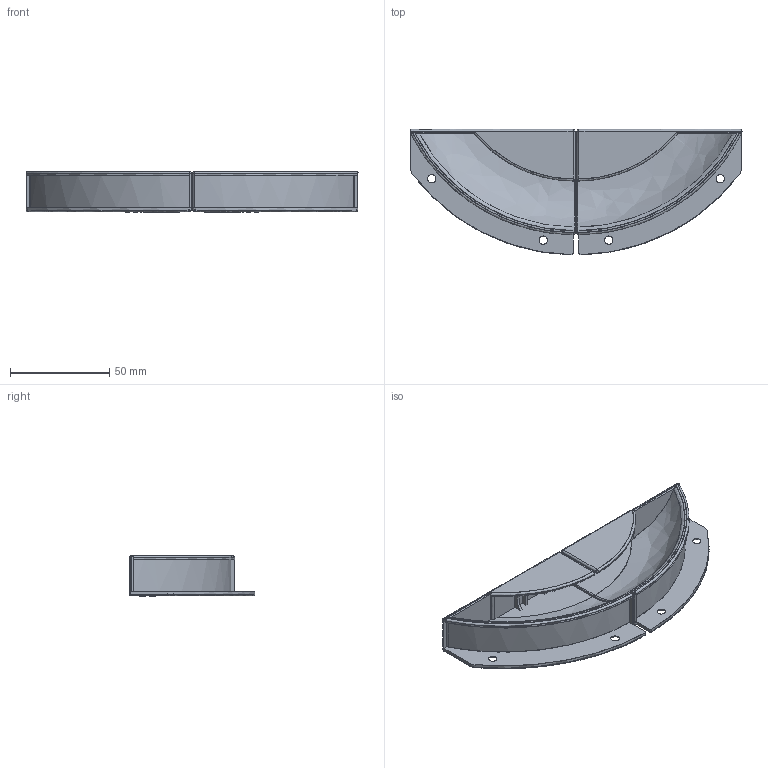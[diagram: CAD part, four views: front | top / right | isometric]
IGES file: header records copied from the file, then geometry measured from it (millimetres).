
Start section: C
Global section: file name: 8174-83 set.igs; native system: By Siemens PLM Incorporated; preprocessor: XPlus GENERIC/IGES 16.0.42; author: Author; organization: Title; date: 20231119.123006; units: millimetre
Bounding box: 167 x 63 x 20.5 mm (x, y, z)
Surface area: 49127.7 mm2 (no closed solid volume)
Topology: 0 solids, 0 shells, 640 faces, 3994 edges, 3984 vertices
Faces by surface type: bspline 640
